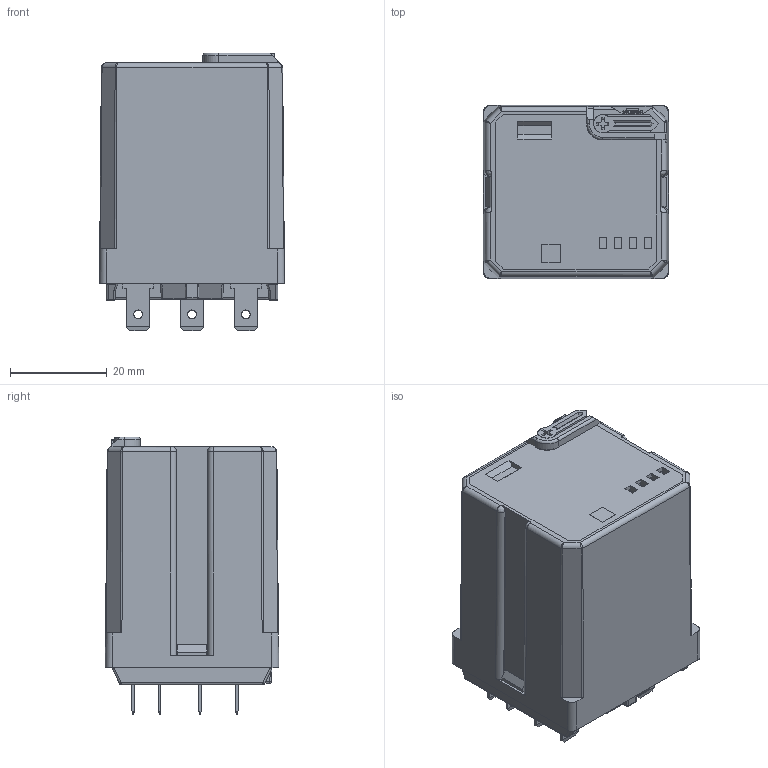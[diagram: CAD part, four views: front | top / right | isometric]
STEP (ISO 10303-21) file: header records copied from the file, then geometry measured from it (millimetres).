
FILE_DESCRIPTION(('STEP AP214'),'2;1');
FILE_NAME('6233.stp','2011-09-07T15:13:59',(''),(''),'2007.1.106','THINKDESIGN','');
FILE_SCHEMA(('AUTOMOTIVE_DESIGN'));
Length unit declared in the file: millimetre
Products named in the file (1): None
Bounding box: 38.2 x 35.8 x 57.3 mm (x, y, z)
Surface area: 11988.5 mm2 (no closed solid volume)
Topology: 0 solids, 0 shells, 570 faces, 3212 edges, 3165 vertices
Faces by surface type: plane 359, cylinder 124, bspline 87
Full cylindrical faces by diameter (mm): 1.8 x11, 2.8 x1, 5 x1
Entity records: 35385 total; most frequent: CARTESIAN_POINT 12850, DIRECTION 3718, COMPOSITE_CURVE_SEGMENT 3189, TRIMMED_CURVE 2571, VECTOR 2440, LINE 2440, AXIS2_PLACEMENT_3D 639, OUTER_BOUNDARY_CURVE 570
